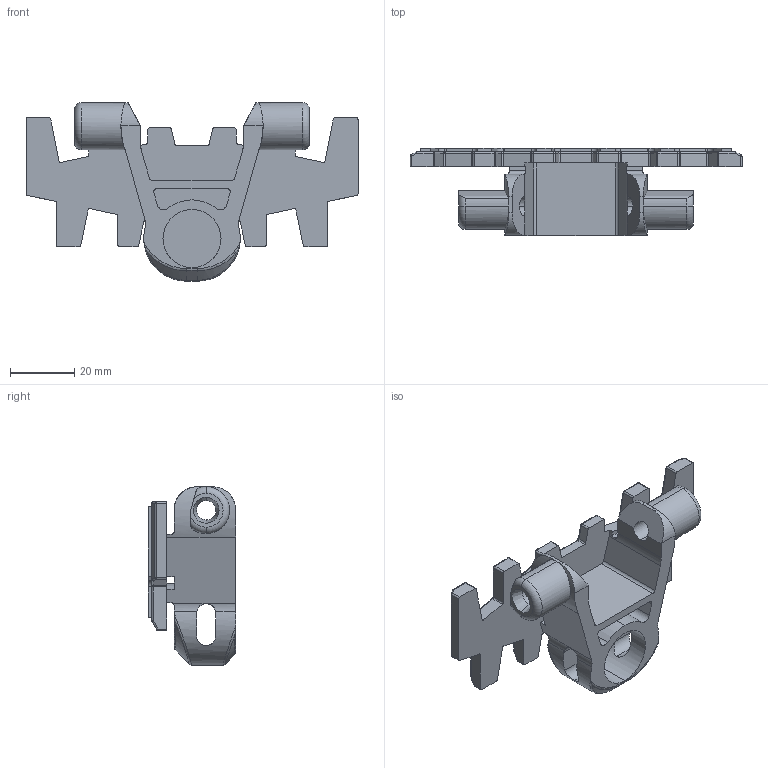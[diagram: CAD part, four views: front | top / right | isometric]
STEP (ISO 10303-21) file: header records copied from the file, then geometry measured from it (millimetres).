
FILE_DESCRIPTION (( 'STEP AP214' ), '1' );
FILE_NAME ('FCFC-5.STEP', '2011-07-04T12:03:39', ( '.' ), ( '' ), 'SwSTEP 2.0', 'SolidWorks 2010', '' );
FILE_SCHEMA (( 'AUTOMOTIVE_DESIGN' ));
Length unit declared in the file: millimetre
Products named in the file (1): FCFC-5
Bounding box: 103 x 27 x 55.3 mm (x, y, z)
Volume: 31272.2 mm3; surface area: 17397.4 mm2
Topology: 1 solids, 1 shells, 412 faces, 1084 edges, 646 vertices
Faces by surface type: cylinder 188, plane 140, sphere 38, torus 34, cone 8, bspline 4
Entity records: 13505 total; most frequent: CARTESIAN_POINT 3319, DIRECTION 2208, ORIENTED_EDGE 2120, EDGE_CURVE 1060, AXIS2_PLACEMENT_3D 813, VERTEX_POINT 646, VECTOR 582, LINE 582
